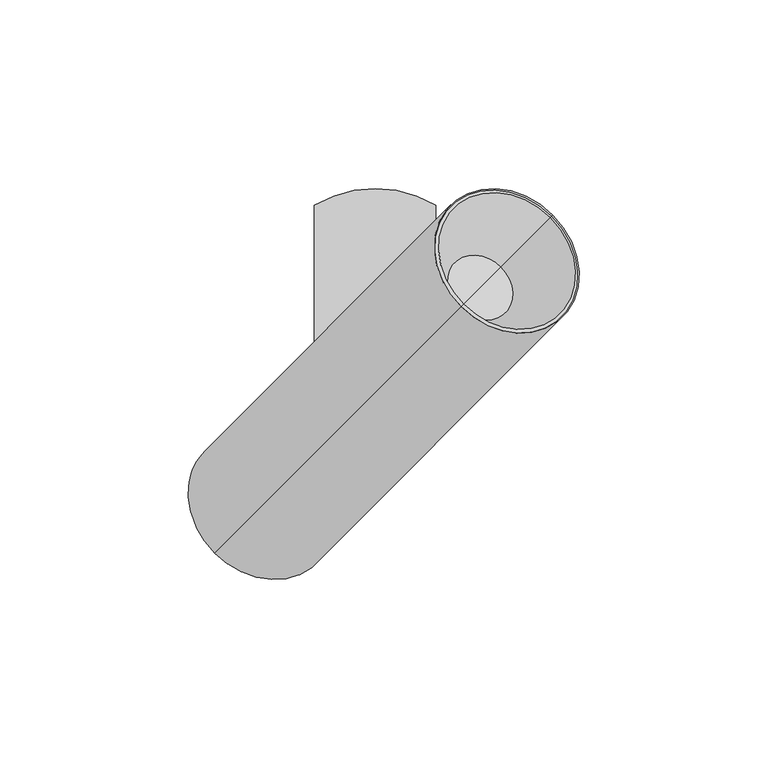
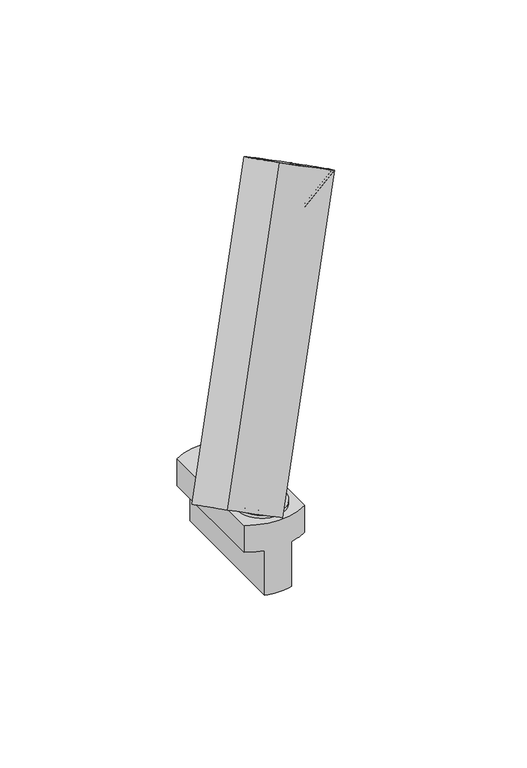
"""IFC4 building model written with IfcOpenShell, lengths in millimetres: light fixture geometry, PIPES T XS : 490lm 7,8W 930 38°."""

import ifcopenshell
import ifcopenshell.guid

model = None  # the IFC model being written
_history = None  # IfcOwnerHistory: only IFC2X3 demands one
_inside = {}  # id of a spatial element -> (the spatial element, [elements in it])
_under = {}  # id of a project, library or spatial element -> (it, [spatial elements below it])
_declared = {}  # id of a project -> (the project, [libraries it declares])
_typed = {}  # id of a type object -> (the type object, [elements of that type])
_made_of = {}  # id of a material, layer set ... -> (it, [elements and type objects made of it])


def new_model(schema):
    """Start an empty IFC model of exactly this schema.

    Asked for "IFC4X3", IfcOpenShell would pick the latest addendum, in which some entities
    have other attributes; the version numbers below select the first issue.
    IFC2X3 requires an IfcOwnerHistory on every rooted entity: one is made here for all.
    """
    global model, _history
    if schema == "IFC4X3":
        model = ifcopenshell.file(schema_version=(4, 3, 0, 0))
    else:
        model = ifcopenshell.file(schema=schema)
    _inside.clear()
    _under.clear()
    _declared.clear()
    _typed.clear()
    _made_of.clear()
    _history = None
    if model.schema == "IFC2X3":
        org = make("IfcOrganization", Name="unknown")
        user = make(
            "IfcPersonAndOrganization",
            ThePerson=make("IfcPerson", FamilyName="unknown"),
            TheOrganization=org,
        )
        app = make(
            "IfcApplication",
            ApplicationDeveloper=org,
            Version="unknown",
            ApplicationFullName="unknown",
            ApplicationIdentifier="unknown",
        )
        _history = make(
            "IfcOwnerHistory",
            OwningUser=user,
            OwningApplication=app,
            ChangeAction="ADDED",
            CreationDate=0,
        )
    return model


def make(cls, **values):
    """One entity of the class cls with the attributes given. An attribute that is None is left unset."""
    return model.create_entity(
        cls, **{name: value for name, value in values.items() if value is not None}
    )


def rooted(cls, **values):
    """An entity with a GlobalId (a new one), such as an element, a storey or a relation."""
    return make(cls, GlobalId=ifcopenshell.guid.new(), OwnerHistory=_history, **values)


def si_unit(unit_type, name, prefix=None):
    """IfcSIUnit, for example si_unit("LENGTHUNIT", "METRE", prefix="MILLI")."""
    return make("IfcSIUnit", UnitType=unit_type, Prefix=prefix, Name=name)


def assignment(units):
    """IfcUnitAssignment: the units of a project."""
    return None if units is None else make("IfcUnitAssignment", Units=units)


def point(xyz):
    """IfcCartesianPoint."""
    return None if xyz is None else make("IfcCartesianPoint", Coordinates=xyz)


def direction(xyz):
    """IfcDirection."""
    return None if xyz is None else make("IfcDirection", DirectionRatios=xyz)


def frame(location, z_axis=None, x_axis=None):
    """IfcAxis2Placement3D, a coordinate frame: its origin and axes. An axis left out is left unset."""
    return make(
        "IfcAxis2Placement3D",
        Location=point(location),
        Axis=direction(z_axis),
        RefDirection=direction(x_axis),
    )


def frame_2d(location, x_axis=None):
    """IfcAxis2Placement2D, a coordinate frame in the plane: its origin and x axis."""
    return make(
        "IfcAxis2Placement2D", Location=point(location), RefDirection=direction(x_axis)
    )


def origin():
    """The frame at (0, 0, 0) with its axes left unset."""
    return frame((0.0, 0.0, 0.0))


def origin_2d():
    """The frame at (0, 0) in the plane with its x axis left unset."""
    return frame_2d((0.0, 0.0))


def place(relative_to, where):
    """IfcLocalPlacement: puts the frame where relative to a parent placement (None: the world)."""
    return make(
        "IfcLocalPlacement", PlacementRelTo=relative_to, RelativePlacement=where
    )


def context(
    kind, dimensions, precision=None, world=None, true_north=None, identifier=None
):
    """IfcGeometricRepresentationContext, for example the 3D "Model" context."""
    return make(
        "IfcGeometricRepresentationContext",
        ContextIdentifier=identifier,
        ContextType=kind,
        CoordinateSpaceDimension=dimensions,
        Precision=precision,
        WorldCoordinateSystem=world,
        TrueNorth=true_north,
    )


def project(units=None, contexts=None):
    """IfcProject with its units and contexts."""
    return rooted(
        "IfcProject",
        Name="project",
        RepresentationContexts=contexts,
        UnitsInContext=assignment(units),
    )


def spatial(cls, under=None, at=None, **own):
    """A site, building, storey or space (cls), placed at a placement, below another one or the project."""
    s = rooted(cls, ObjectPlacement=at, **own)
    if under is not None:
        _under.setdefault(under.id(), (under, []))[1].append(s)
    return s


def polyline(points):
    """IfcPolyline through the points."""
    return make("IfcPolyline", Points=[point(p) for p in points])


def circle_curve(where, radius):
    """IfcCircle in the frame where."""
    return make("IfcCircle", Position=where, Radius=radius)


def trimmed(basis, trim1, trim2, sense, master):
    """IfcTrimmedCurve: the piece of a basis curve between two trims."""
    return make(
        "IfcTrimmedCurve",
        BasisCurve=basis,
        Trim1=trim1,
        Trim2=trim2,
        SenseAgreement=sense,
        MasterRepresentation=master,
    )


def segment(curve, same_sense, transition):
    """IfcCompositeCurveSegment."""
    return make(
        "IfcCompositeCurveSegment",
        Transition=transition,
        SameSense=same_sense,
        ParentCurve=curve,
    )


def composite_curve(segments, self_intersect=None):
    """IfcCompositeCurve: segments joined end to end."""
    return make("IfcCompositeCurve", Segments=segments, SelfIntersect=self_intersect)


def outline(outer, holes=None, kind="AREA"):
    """IfcArbitraryClosedProfileDef: a profile drawn as a closed curve; with holes, ...WithVoids."""
    if holes is None:
        return make("IfcArbitraryClosedProfileDef", ProfileType=kind, OuterCurve=outer)
    return make(
        "IfcArbitraryProfileDefWithVoids",
        ProfileType=kind,
        OuterCurve=outer,
        InnerCurves=holes,
    )


def extrude(swept, where, along, depth):
    """IfcExtrudedAreaSolid: the profile swept, set in the frame where, extruded along a direction by depth."""
    return make(
        "IfcExtrudedAreaSolid",
        SweptArea=swept,
        Position=where,
        ExtrudedDirection=direction(along),
        Depth=depth,
    )


def shape(context_of_items, identifier, shape_type, items):
    """IfcShapeRepresentation: the items that make up one representation, for example the "Body"."""
    return make(
        "IfcShapeRepresentation",
        ContextOfItems=context_of_items,
        RepresentationIdentifier=identifier,
        RepresentationType=shape_type,
        Items=items,
    )


def source(mapping_origin, context_of_items, identifier, shape_type, items):
    """IfcRepresentationMap: a shape defined once, which mapped items show again and again."""
    return make(
        "IfcRepresentationMap",
        MappingOrigin=mapping_origin,
        MappedRepresentation=shape(context_of_items, identifier, shape_type, items),
    )


def transform(
    local_origin,
    x_axis=None,
    y_axis=None,
    z_axis=None,
    scale=None,
    scale2=None,
    scale3=None,
    uniform=True,
):
    """IfcCartesianTransformationOperator3D, or its non-uniform kind. x_axis, y_axis, z_axis: its Axis1, 2, 3."""
    if uniform:
        return make(
            "IfcCartesianTransformationOperator3D",
            Axis1=direction(x_axis),
            Axis2=direction(y_axis),
            LocalOrigin=point(local_origin),
            Scale=scale,
            Axis3=direction(z_axis),
        )
    return make(
        "IfcCartesianTransformationOperator3DnonUniform",
        Axis1=direction(x_axis),
        Axis2=direction(y_axis),
        LocalOrigin=point(local_origin),
        Scale=scale,
        Axis3=direction(z_axis),
        Scale2=scale2,
        Scale3=scale3,
    )


def mapped(mapping_source, mapping_target):
    """IfcMappedItem: shows the shape of a source again, moved by a transform."""
    return make(
        "IfcMappedItem", MappingSource=mapping_source, MappingTarget=mapping_target
    )


def made_of(thing, what):
    """Note that an element or type object is made of a material, layer set ...; save() writes the relation."""
    if what is not None:
        _made_of.setdefault(what.id(), (what, []))[1].append(thing)
    return thing


def element(
    cls,
    number,
    at=None,
    inside=None,
    cuts=None,
    type_object=None,
    material=None,
    context=None,
    identifier="Body",
    shape_type=None,
    held_by="IfcProductDefinitionShape",
    body=None,
    shapes=None,
    **own,
):
    """One element of the class cls, such as IfcWall. Its Tag is "e" and its number.

    at: its placement. inside: the storey or other place that contains it. cuts: it is an
    opening in that element (IfcRelVoidsElement). A single representation is given by context,
    identifier, shape_type and body (its items); several are given by shapes. held_by: the class
    of the entity that holds the representations. save() writes the other relations.
    """
    e = rooted(cls, Tag="e%d" % number, ObjectPlacement=at, **own)
    if body is not None:
        shapes = [shape(context, identifier, shape_type, body)]
    if shapes is not None:
        e.Representation = make(held_by, Representations=shapes)
    if inside is not None:
        _inside.setdefault(inside.id(), (inside, []))[1].append(e)
    if cuts is not None:
        rooted(
            "IfcRelVoidsElement", RelatingBuildingElement=cuts, RelatedOpeningElement=e
        )
    if type_object is not None:
        _typed.setdefault(type_object.id(), (type_object, []))[1].append(e)
    return made_of(e, material)


def aggregate(whole, parts):
    """IfcRelAggregates: a whole, such as a stair, and the parts it consists of."""
    return rooted("IfcRelAggregates", RelatingObject=whole, RelatedObjects=parts)


def save(model, path):
    """Write the relations noted so far, then the file.

    IfcRelAggregates (storeys below a building ...), IfcRelContainedInSpatialStructure (elements
    in a storey), IfcRelDefinesByType, IfcRelAssociatesMaterial and IfcRelDeclares: one each for
    every whole, place, type object, material and project.
    """
    for whole, parts in _under.values():
        aggregate(whole, parts)
    for where, things in _inside.values():
        rooted(
            "IfcRelContainedInSpatialStructure",
            RelatedElements=things,
            RelatingStructure=where,
        )
    for kind, things in _typed.values():
        rooted("IfcRelDefinesByType", RelatedObjects=things, RelatingType=kind)
    for what, things in _made_of.values():
        rooted("IfcRelAssociatesMaterial", RelatedObjects=things, RelatingMaterial=what)
    for by, libraries in _declared.values():
        rooted("IfcRelDeclares", RelatingContext=by, RelatedDefinitions=libraries)
    model.write(path)


def plane_surface(at):
    """IfcPlane: the flat surface through the origin of the frame at, square to its z axis."""
    return make("IfcPlane", Position=at)


def cylinder_surface(at, radius):
    """IfcCylindricalSurface: all points at the distance radius from the z axis of the frame at."""
    return make("IfcCylindricalSurface", Position=at, Radius=radius)


def revolved_surface(curve, axis_point, axis_direction):
    """IfcSurfaceOfRevolution: the curve turned about the line through axis_point along axis_direction."""
    return make(
        "IfcSurfaceOfRevolution",
        SweptCurve=make("IfcArbitraryOpenProfileDef", ProfileType="CURVE", Curve=curve),
        AxisPosition=make("IfcAxis1Placement", Location=point(axis_point), Axis=direction(axis_direction)),
    )


def advanced_brep(points, edges, surfaces, faces):
    """IfcAdvancedBrep: a solid bounded by faces that lie on surfaces and meet in shared edges.

    An edge is (start, end): straight between two places in points (the first is 0);
    or (start, end, curve); or (start, end, curve, False) where it runs against its curve.
    A face is (place in surfaces, loops), or (place, loops, False) where it looks against
    its surface's normal. A loop lists edges by number (the first is 1), with a minus sign
    where the edge is run from its end to its start. The first loop is the outer one.
    """
    corners = [point(p) for p in points]
    vertices = [make("IfcVertexPoint", VertexGeometry=c) for c in corners]
    made = []
    for start, end, *more in edges:
        made.append(
            make(
                "IfcEdgeCurve",
                EdgeStart=vertices[start],
                EdgeEnd=vertices[end],
                EdgeGeometry=more[0] if more else make("IfcPolyline", Points=[corners[start], corners[end]]),
                SameSense=more[1] if len(more) > 1 else True,
            )
        )
    hull = []
    for where, loops, *sense in faces:
        bounds = []
        for j, loop in enumerate(loops):
            ring = [make("IfcOrientedEdge", EdgeElement=made[abs(k) - 1], Orientation=k > 0) for k in loop]
            bounds.append(
                make(
                    "IfcFaceOuterBound" if j == 0 else "IfcFaceBound",
                    Bound=make("IfcEdgeLoop", EdgeList=ring),
                    Orientation=True,
                )
            )
        hull.append(make("IfcAdvancedFace", Bounds=bounds, FaceSurface=surfaces[where], SameSense=sense[0] if sense else True))
    return make("IfcAdvancedBrep", Outer=make("IfcClosedShell", CfsFaces=hull))


def light_fixture_a01f3050(model_context):
    return source(origin(), model_context, "Body", "SolidModel", [
        extrude(outline(composite_curve([segment(polyline([(39.7303383, 0.0), (39.7303383, -7.9999999), (36.7303383, -7.9999999), (36.7303383, -10.0), (-21.31827, -10.0), (-21.31827, -2.0000001)]), True, "CONTINUOUS"), segment(trimmed(circle_curve(frame_2d((-15.691322, -2.0000001)), 5.626948), [point((-21.31827, -2.0000001))], [point((-15.691322, 3.626948))], False, "CARTESIAN"), True, "CONTINUOUS"), segment(polyline([(-15.691322, 3.626948), (-9.8735653, 3.626948)]), True, "CONTINUOUS"), segment(trimmed(circle_curve(frame_2d((-17.7182036, -2.2388678)), 9.7952104), [point((-9.8735653, 3.626948))], [point((-8.1822916, 0.0))], False, "CARTESIAN"), True, "CONTINUOUS"), segment(polyline([(-8.1822916, 0.0), (39.7303383, 0.0)]), True, "CONTINUOUS")], self_intersect=False)), frame((0.0, -7.0710678, 56.5303383), z_axis=(-0.707106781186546, 0.7071067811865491, 0.0), x_axis=(0.0, 0.0, -1.0)), (0.0, 0.0, 1.0), 10.0),
        extrude(outline(composite_curve([segment(trimmed(circle_curve(origin_2d(), 12.5), [point((-8.8388348, 8.8388348))], [point((8.8388348, -8.8388348))], False, "CARTESIAN"), True, "CONTINUOUS"), segment(trimmed(circle_curve(origin_2d(), 12.5), [point((8.8388348, -8.8388348))], [point((-8.8388348, 8.8388348))], False, "CARTESIAN"), True, "CONTINUOUS")], self_intersect=False)), frame((0.0, 0.0, 15.0), z_axis=(0.0, 0.0, 1.0), x_axis=(1.0, 0.0, 0.0)), (0.0, 0.0, 1.0), 1.8),
        advanced_brep(
        [(-7.1153658, -15.2862846, -25.0), (-7.1153658, 53.3498174, -25.0), (7.1153658, 53.3498174, -25.0), (7.1153658, -15.2862846, -25.0), (-16.1153658, 49.7317664, 15.0), (-16.1153658, -11.6682336, 15.0), (16.1153658, -11.6682336, 15.0), (16.1153658, 49.7317664, 15.0), (-16.1153658, 49.7317664, 0.0), (-16.1153658, -11.6682336, 0.0), (-7.1153658, -15.2862846, 0.0), (7.1153658, -15.2862846, 0.0), (16.1153658, -11.6682336, 0.0), (16.1153658, 49.7317664, 0.0), (7.1153658, 53.3498174, 0.0), (-7.1153658, 53.3498174, 0.0)],
        [
            (0, 1),
            (1, 2, circle_curve(frame((0.0, 22.6472542, -25.0), z_axis=(0.0, 0.0, -1.0), x_axis=(1.0, 0.0, 0.0)), 31.5162786)),
            (2, 3),
            (3, 0, circle_curve(frame((0.0, 15.4162786, -25.0), z_axis=(0.0, 0.0, -1.0), x_axis=(1.0, 0.0, 0.0)), 31.5162786)),
            (4, 5),
            (5, 6, circle_curve(frame((0.0, 15.4162786, 15.0), z_axis=(0.0, 0.0, 1.0), x_axis=(1.0, 0.0, 0.0)), 31.5162786)),
            (6, 7),
            (7, 4, circle_curve(frame((0.0, 22.6472542, 15.0), z_axis=(0.0, 0.0, 1.0), x_axis=(1.0, 0.0, 0.0)), 31.5162786)),
            (4, 8),
            (8, 9),
            (9, 5),
            (9, 10, circle_curve(frame((0.0, 15.4162786, 0.0), z_axis=(0.0, 0.0, 1.0), x_axis=(1.0, 0.0, 0.0)), 31.5162786)),
            (10, 0),
            (3, 11),
            (11, 12, circle_curve(frame((0.0, 15.4162786, 0.0), z_axis=(0.0, 0.0, 1.0), x_axis=(1.0, 0.0, 0.0)), 31.5162786)),
            (12, 6),
            (12, 13),
            (13, 7),
            (13, 14, circle_curve(frame((0.0, 22.6472542, 0.0), z_axis=(0.0, 0.0, 1.0), x_axis=(1.0, 0.0, 0.0)), 31.5162786)),
            (14, 2),
            (1, 15),
            (15, 8, circle_curve(frame((0.0, 22.6472542, 0.0), z_axis=(0.0, 0.0, 1.0), x_axis=(1.0, 0.0, 0.0)), 31.5162786)),
            (15, 10),
            (11, 14),
        ],
        [
            plane_surface(frame((-16.1153658, -11.6883244, -25.0), z_axis=(0.0, 0.0, -1.0), x_axis=(0.0, 1.0, 0.0))),
            plane_surface(frame((-16.1153658, -11.6883244, 15.0), z_axis=(0.0, 0.0, 1.0), x_axis=(0.0, -1.0, 0.0))),
            plane_surface(frame((-16.1153658, 49.7317664, 15.0), z_axis=(-1.0, 0.0, 0.0), x_axis=(0.0, 0.0, -1.0))),
            cylinder_surface(frame((0.0, 15.4162786, -25.0), z_axis=(0.0, 0.0, 1.0), x_axis=(1.0, 0.0, 0.0)), 31.5162786),
            plane_surface(frame((16.1153658, -11.6682336, 15.0), z_axis=(1.0, 0.0, 0.0), x_axis=(0.0, 0.0, -1.0))),
            cylinder_surface(frame((0.0, 22.6472542, -25.0), z_axis=(0.0, 0.0, 1.0), x_axis=(1.0, 0.0, 0.0)), 31.5162786),
            plane_surface(frame((-7.1153658, 58.6979838, 0.0), z_axis=(0.0, 0.0, -1.0), x_axis=(-1.0, 0.0, 0.0))),
            plane_surface(frame((-7.1153658, -21.3020162, 0.0), z_axis=(-1.0, 0.0, 0.0), x_axis=(0.0, 0.0, -1.0))),
            plane_surface(frame((7.1153658, -11.6883244, 0.0), z_axis=(0.0, 0.0, -1.0), x_axis=(0.0, -1.0, 0.0))),
            plane_surface(frame((7.1153658, 58.6979838, 0.0), z_axis=(1.0, 0.0, 0.0), x_axis=(0.0, 0.0, -1.0))),
        ],
        [
            (0, [[1, 2, 3, 4]]),
            (1, [[5, 6, 7, 8]]),
            (2, [[-5, 9, 10, 11]]),
            (3, [[-6, -11, 12, 13, -4, 14, 15, 16]]),
            (4, [[-7, -16, 17, 18]]),
            (5, [[-8, -18, 19, 20, -2, 21, 22, -9]]),
            (6, [[23, -12, -10, -22]]),
            (7, [[-23, -21, -1, -13]]),
            (8, [[24, -19, -17, -15]]),
            (9, [[-24, -14, -3, -20]]),
        ],
    ),
        advanced_brep(
        [(-4.4037748, 2.667293, 79.9636424), (-25.088344, -18.0172762, 38.1868881), (-20.8424276, -13.7713598, 33.9823992), (-23.2759063, -16.2048385, 29.0674869), (-22.0793515, -15.0082837, 27.8826069), (1.0386964, 8.1097642, 74.5742734), (2.667293, -4.4037748, 79.9636424), (8.1097642, 1.0386964, 74.5742734), (-15.0082837, -22.0793515, 27.8826069), (-16.2048385, -23.2759063, 29.0674869), (-13.7713598, -20.8424276, 33.9823992), (-18.0172762, -25.088344, 38.1868881), (-21.5528101, -21.5528101, 38.1868881), (4.9240388, 4.9240388, 74.227878), (47.1043367, 47.1043367, 159.4196906), (22.7767621, 22.7767621, 183.509901), (-42.5215837, -42.5215837, 51.6264218), (-41.3631277, -41.3631277, 50.479269), (-38.929649, -38.929649, 55.3941812), (-27.9243177, -27.9243177, 44.4962289), (21.6450437, 21.6450437, 162.0462474), (33.229603, 33.229603, 150.5747186), (27.4373233, 27.4373233, 156.310483)],
        [
            (0, 1),
            (1, 2),
            (2, 3),
            (3, 4),
            (4, 5),
            (5, 0),
            (6, 7),
            (7, 8),
            (8, 9),
            (9, 10),
            (10, 11),
            (11, 6),
            (0, 6),
            (11, 12),
            (12, 1),
            (5, 13, circle_curve(frame((-7.2397485, -7.2397485, 86.2729832), z_axis=(-0.40557978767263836, -0.4055797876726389, -0.8191520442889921), x_axis=(0.5792279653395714, 0.5792279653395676, -0.5735764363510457)), 21.0)),
            (13, 7, circle_curve(frame((-7.2397485, -7.2397485, 86.2729832), z_axis=(-0.40557978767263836, -0.4055797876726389, -0.8191520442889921), x_axis=(0.5792279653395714, 0.5792279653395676, -0.5735764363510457)), 21.0)),
            (14, 15, circle_curve(frame((34.9405494, 34.9405494, 171.4647958), z_axis=(-0.40557978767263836, -0.4055797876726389, -0.8191520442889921), x_axis=(0.5792279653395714, 0.5792279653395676, -0.5735764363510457)), 21.0)),
            (15, 16),
            (16, 8, circle_curve(frame((-30.3577964, -30.3577964, 39.5813167), z_axis=(0.40557978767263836, 0.4055797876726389, 0.8191520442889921), x_axis=(0.5792279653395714, 0.5792279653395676, -0.5735764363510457)), 21.0)),
            (13, 14),
            (15, 14, circle_curve(frame((34.9405494, 34.9405494, 171.4647958), z_axis=(-0.40557978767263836, -0.4055797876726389, -0.8191520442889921), x_axis=(0.5792279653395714, 0.5792279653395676, -0.5735764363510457)), 21.0)),
            (4, 16, circle_curve(frame((-30.3577964, -30.3577964, 39.5813167), z_axis=(0.40557978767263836, 0.4055797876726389, 0.8191520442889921), x_axis=(0.5792279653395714, 0.5792279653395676, -0.5735764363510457)), 21.0)),
            (16, 17),
            (17, 9, circle_curve(frame((-30.3577964, -30.3577964, 39.5813167), z_axis=(0.40557978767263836, 0.4055797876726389, 0.8191520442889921), x_axis=(0.5792279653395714, 0.5792279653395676, -0.5735764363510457)), 19.0)),
            (3, 17, circle_curve(frame((-30.3577964, -30.3577964, 39.5813167), z_axis=(0.40557978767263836, 0.4055797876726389, 0.8191520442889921), x_axis=(0.5792279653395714, 0.5792279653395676, -0.5735764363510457)), 19.0)),
            (17, 18),
            (18, 10, circle_curve(frame((-27.9243177, -27.9243177, 44.4962289), z_axis=(0.40557978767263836, 0.4055797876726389, 0.8191520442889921), x_axis=(0.5792279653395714, 0.5792279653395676, -0.5735764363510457)), 19.0)),
            (2, 18, circle_curve(frame((-27.9243177, -27.9243177, 44.4962289), z_axis=(0.40557978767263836, 0.4055797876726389, 0.8191520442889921), x_axis=(0.5792279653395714, 0.5792279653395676, -0.5735764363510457)), 19.0)),
            (18, 19),
            (19, 12),
            (20, 21, circle_curve(frame((27.4373233, 27.4373233, 156.310483), z_axis=(0.40557978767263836, 0.4055797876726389, 0.8191520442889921), x_axis=(0.5792279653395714, 0.5792279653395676, -0.5735764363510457)), 10.0)),
            (21, 22),
            (22, 20),
            (21, 20, circle_curve(frame((27.4373233, 27.4373233, 156.310483), z_axis=(0.40557978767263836, 0.4055797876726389, 0.8191520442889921), x_axis=(0.5792279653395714, 0.5792279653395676, -0.5735764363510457)), 10.0)),
            (14, 21),
            (20, 15),
        ],
        [
            plane_surface(frame((-4.4037748, 2.667293, 79.9636424), z_axis=(0.7071067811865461, -0.707106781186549, 0.0), x_axis=(0.40557978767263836, 0.4055797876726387, 0.8191520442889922))),
            plane_surface(frame((2.667293, -4.4037748, 79.9636424), z_axis=(-0.7071067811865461, 0.707106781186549, 0.0), x_axis=(-0.40557978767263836, -0.4055797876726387, -0.8191520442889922))),
            plane_surface(frame((2.667293, -4.4037748, 79.9636424), z_axis=(0.5792279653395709, 0.5792279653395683, -0.5735764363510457), x_axis=(-0.707106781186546, 0.7071067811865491, 0.0))),
            plane_surface(frame((14.2518523, 7.1807845, 68.4921137), z_axis=(-0.4055797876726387, -0.405579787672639, -0.819152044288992), x_axis=(-0.707106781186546, 0.7071067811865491, 0.0))),
            cylinder_surface(frame((-33.7859113, -33.7859113, 32.6575315), z_axis=(-0.40557978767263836, -0.4055797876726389, -0.8191520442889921), x_axis=(0.5792279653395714, 0.5792279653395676, -0.5735764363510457)), 21.0),
            plane_surface(frame((-30.3577964, -30.3577964, 39.5813167), z_axis=(-0.40557978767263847, -0.4055797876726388, -0.8191520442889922), x_axis=(0.5792279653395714, 0.5792279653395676, -0.5735764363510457))),
            revolved_surface(polyline([(-19.352465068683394, -19.35246506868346, 28.68336438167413), (-16.918986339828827, -16.91898633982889, 33.59827665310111)]), (-33.7859113, -33.7859113, 32.6575315), (-0.40557978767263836, -0.4055797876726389, -0.8191520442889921)),
            revolved_surface(polyline([(-19.352465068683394, -19.352465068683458, 28.683364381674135), (-16.918986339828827, -16.91898633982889, 33.59827665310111)]), (-33.7859113, -33.7859113, 32.6575315), (-0.40557978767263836, -0.4055797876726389, -0.8191520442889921)),
            plane_surface(frame((-27.9243177, -27.9243177, 44.4962289), z_axis=(-0.40557978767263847, -0.4055797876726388, -0.8191520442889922), x_axis=(0.5792279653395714, 0.5792279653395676, -0.5735764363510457))),
            plane_surface(frame((27.4373233, 27.4373233, 156.310483), z_axis=(0.40557978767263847, 0.4055797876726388, 0.8191520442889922), x_axis=(0.5792279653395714, 0.5792279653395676, -0.5735764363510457))),
            revolved_surface(polyline([(33.229603, 33.229603, 150.5747186), (47.1043367, 47.1043367, 159.4196906)]), (-33.7859113, -33.7859113, 32.6575315), (-0.40557978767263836, -0.4055797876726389, -0.8191520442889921)),
        ],
        [
            (0, [[1, 2, 3, 4, 5, 6]]),
            (1, [[7, 8, 9, 10, 11, 12]]),
            (2, [[13, -12, 14, 15, -1]]),
            (3, [[-13, -6, 16, 17, -7]]),
            (4, [[18, 19, 20, -8, -17, 21]]),
            (4, [[-19, 22, -21, -16, -5, 23]]),
            (5, [[24, 25, -9, -20]]),
            (5, [[-24, -23, -4, 26]]),
            (6, [[27, 28, -10, -25]]),
            (7, [[-27, -26, -3, 29]]),
            (8, [[30, 31, -14, -11, -28]]),
            (8, [[-30, -29, -2, -15, -31]]),
            (9, [[32, 33, 34]]),
            (9, [[-33, 35, -34]]),
            (10, [[-18, 36, -32, 37]]),
            (10, [[-22, -37, -35, -36]]),
        ],
    ),
        advanced_brep(
        [(-26.7106631, -19.6395953, 34.91028), (-27.5218227, -20.4507549, 33.2719759), (-24.4858422, -17.4147744, 30.2656175), (-23.6746826, -16.6036148, 31.9039216), (-20.4507549, -27.5218227, 33.2719759), (-19.6395953, -26.7106631, 34.91028), (-16.6036148, -23.6746826, 31.9039216), (-17.4147744, -24.4858422, 30.2656175), (-23.1751292, -23.1751292, 34.91028), (-23.9862888, -23.9862888, 33.2719759), (-29.5466368, -29.5466368, 41.2196208), (-39.3898303, -39.3898303, 50.9667742), (-40.2009899, -40.2009899, 49.3284701), (-30.3577964, -30.3577964, 39.5813167)],
        [
            (0, 1),
            (1, 2),
            (2, 3),
            (3, 0),
            (4, 5),
            (5, 6),
            (6, 7),
            (7, 4),
            (0, 8),
            (8, 5),
            (4, 9),
            (9, 1),
            (10, 11),
            (11, 6, circle_curve(frame((-29.5466368, -29.5466368, 41.2196208), z_axis=(0.4055797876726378, 0.40557978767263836, 0.8191520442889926), x_axis=(0.5792279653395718, 0.5792279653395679, -0.5735764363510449)), 16.9936434)),
            (8, 10),
            (3, 11, circle_curve(frame((-29.5466368, -29.5466368, 41.2196208), z_axis=(0.4055797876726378, 0.40557978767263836, 0.8191520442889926), x_axis=(0.5792279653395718, 0.5792279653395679, -0.5735764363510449)), 16.9936434)),
            (11, 12),
            (12, 7, circle_curve(frame((-30.3577964, -30.3577964, 39.5813167), z_axis=(0.4055797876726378, 0.40557978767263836, 0.8191520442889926), x_axis=(0.5792279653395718, 0.5792279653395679, -0.5735764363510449)), 16.9936434)),
            (2, 12, circle_curve(frame((-30.3577964, -30.3577964, 39.5813167), z_axis=(0.4055797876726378, 0.40557978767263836, 0.8191520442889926), x_axis=(0.5792279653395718, 0.5792279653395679, -0.5735764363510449)), 16.9936434)),
            (12, 13),
            (13, 9),
        ],
        [
            plane_surface(frame((-4.4037748, 2.667293, 79.9636424), z_axis=(0.7071067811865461, -0.707106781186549, 0.0), x_axis=(0.40557978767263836, 0.4055797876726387, 0.8191520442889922))),
            plane_surface(frame((2.667293, -4.4037748, 79.9636424), z_axis=(-0.7071067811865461, 0.707106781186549, 0.0), x_axis=(-0.40557978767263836, -0.4055797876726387, -0.8191520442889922))),
            plane_surface(frame((2.667293, -4.4037748, 79.9636424), z_axis=(0.5792279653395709, 0.5792279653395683, -0.5735764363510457), x_axis=(-0.707106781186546, 0.7071067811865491, 0.0))),
            plane_surface(frame((-29.5466368, -29.5466368, 41.2196208), z_axis=(0.4055797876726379, 0.40557978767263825, 0.8191520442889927), x_axis=(0.5792279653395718, 0.5792279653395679, -0.5735764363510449))),
            cylinder_surface(frame((23.1980489, 23.1980489, 147.7483938), z_axis=(-0.4055797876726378, -0.40557978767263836, -0.8191520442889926), x_axis=(0.5792279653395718, 0.5792279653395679, -0.5735764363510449)), 16.9936434),
            plane_surface(frame((-30.3577964, -30.3577964, 39.5813167), z_axis=(-0.4055797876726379, -0.40557978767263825, -0.8191520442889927), x_axis=(0.5792279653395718, 0.5792279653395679, -0.5735764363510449))),
        ],
        [
            (0, [[1, 2, 3, 4]]),
            (1, [[5, 6, 7, 8]]),
            (2, [[-1, 9, 10, -5, 11, 12]]),
            (3, [[13, 14, -6, -10, 15]]),
            (3, [[-13, -15, -9, -4, 16]]),
            (4, [[17, 18, -7, -14]]),
            (4, [[-17, -16, -3, 19]]),
            (5, [[20, 21, -11, -8, -18]]),
            (5, [[-20, -19, -2, -12, -21]]),
        ],
    ),
        advanced_brep(
        [(22.3801022, 22.3801022, 162.5391354), (33.305704, 33.305704, 151.7201347), (27.8429031, 27.8429031, 157.129635), (23.4506467, 23.4506467, 182.8425915), (46.4304521, 46.4304521, 160.0870001), (22.7767621, 22.7767621, 183.509901), (47.1043367, 47.1043367, 159.4196906), (21.6450437, 21.6450437, 162.0462474), (33.229603, 33.229603, 150.5747186), (27.4373233, 27.4373233, 156.310483)],
        [
            (0, 1, circle_curve(frame((27.8429031, 27.8429031, 157.129635), z_axis=(0.4055797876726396, 0.4055797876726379, 0.819152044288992), x_axis=(0.5792279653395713, 0.5792279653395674, -0.5735764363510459)), 9.431176)),
            (1, 2),
            (2, 0),
            (1, 0, circle_curve(frame((27.8429031, 27.8429031, 157.129635), z_axis=(0.4055797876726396, 0.4055797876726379, 0.819152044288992), x_axis=(0.5792279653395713, 0.5792279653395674, -0.5735764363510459)), 9.431176)),
            (3, 4, circle_curve(frame((34.9405494, 34.9405494, 171.4647958), z_axis=(0.4055797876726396, 0.4055797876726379, 0.819152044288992), x_axis=(0.5792279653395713, 0.5792279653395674, -0.5735764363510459)), 19.8365814)),
            (4, 1),
            (0, 3),
            (4, 3, circle_curve(frame((34.9405494, 34.9405494, 171.4647958), z_axis=(0.4055797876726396, 0.4055797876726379, 0.819152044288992), x_axis=(0.5792279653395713, 0.5792279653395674, -0.5735764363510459)), 19.8365814)),
            (5, 6, circle_curve(frame((34.9405494, 34.9405494, 171.4647958), z_axis=(0.4055797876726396, 0.4055797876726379, 0.819152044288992), x_axis=(0.5792279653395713, 0.5792279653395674, -0.5735764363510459)), 21.0)),
            (6, 4),
            (3, 5),
            (6, 5, circle_curve(frame((34.9405494, 34.9405494, 171.4647958), z_axis=(0.4055797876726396, 0.4055797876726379, 0.819152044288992), x_axis=(0.5792279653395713, 0.5792279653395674, -0.5735764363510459)), 21.0)),
            (7, 8, circle_curve(frame((27.4373233, 27.4373233, 156.310483), z_axis=(0.4055797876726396, 0.4055797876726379, 0.819152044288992), x_axis=(0.5792279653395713, 0.5792279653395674, -0.5735764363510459)), 10.0)),
            (8, 6),
            (5, 7),
            (8, 7, circle_curve(frame((27.4373233, 27.4373233, 156.310483), z_axis=(0.4055797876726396, 0.4055797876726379, 0.819152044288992), x_axis=(0.5792279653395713, 0.5792279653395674, -0.5735764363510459)), 10.0)),
            (9, 8),
            (7, 9),
        ],
        [
            plane_surface(frame((27.8429031, 27.8429031, 157.129635), z_axis=(0.4055797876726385, 0.40557978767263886, 0.8191520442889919), x_axis=(0.5792279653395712, 0.5792279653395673, -0.5735764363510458))),
            revolved_surface(polyline([(33.305704, 33.305704, 151.7201347), (46.4304521, 46.4304521, 160.0870001)]), (-41.897507, -41.897507, 16.2744907), (-0.4055797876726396, -0.4055797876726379, -0.819152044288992)),
            plane_surface(frame((34.9405494, 34.9405494, 171.4647958), z_axis=(0.4055797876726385, 0.40557978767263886, 0.8191520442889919), x_axis=(0.5792279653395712, 0.5792279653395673, -0.5735764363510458))),
            revolved_surface(polyline([(47.1043367, 47.1043367, 159.4196906), (33.229603, 33.229603, 150.5747186)]), (-41.897507, -41.897507, 16.2744907), (-0.4055797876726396, -0.4055797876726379, -0.819152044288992)),
            plane_surface(frame((27.4373233, 27.4373233, 156.310483), z_axis=(-0.4055797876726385, -0.40557978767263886, -0.8191520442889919), x_axis=(0.5792279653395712, 0.5792279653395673, -0.5735764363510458))),
        ],
        [
            (0, [[1, 2, 3]]),
            (0, [[4, -3, -2]]),
            (1, [[5, 6, -1, 7]]),
            (1, [[8, -7, -4, -6]]),
            (2, [[9, 10, -5, 11]]),
            (2, [[12, -11, -8, -10]]),
            (3, [[13, 14, -9, 15]]),
            (3, [[16, -15, -12, -14]]),
            (4, [[17, -13, 18]]),
            (4, [[-18, -16, -17]]),
        ],
    ),
    ])


if __name__ == "__main__":
    model = new_model("IFC4")
    model_context = context("Model", 3, world=origin())
    ifc_project = project(units=[si_unit("LENGTHUNIT", "METRE", prefix="MILLI")], contexts=[model_context])
    site = spatial("IfcSite", under=ifc_project)
    building = spatial("IfcBuilding", under=site)
    placement = place(None, origin())
    light_fixture_shape = light_fixture_a01f3050(model_context)
    element("IfcLightFixture", 1, ObjectType="PIPES T XS : 490lm 7,8W 930 38°", at=placement, inside=building, context=model_context, shape_type="MappedRepresentation", body=[
        mapped(light_fixture_shape, transform((0.0, 0.0, 0.0), x_axis=(1.0, 0.0, 0.0), y_axis=(0.0, 1.0, 0.0), z_axis=(0.0, 0.0, 1.0))),
    ])
    save(model, "model.ifc")
